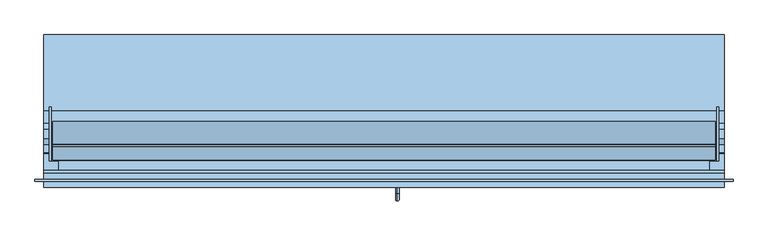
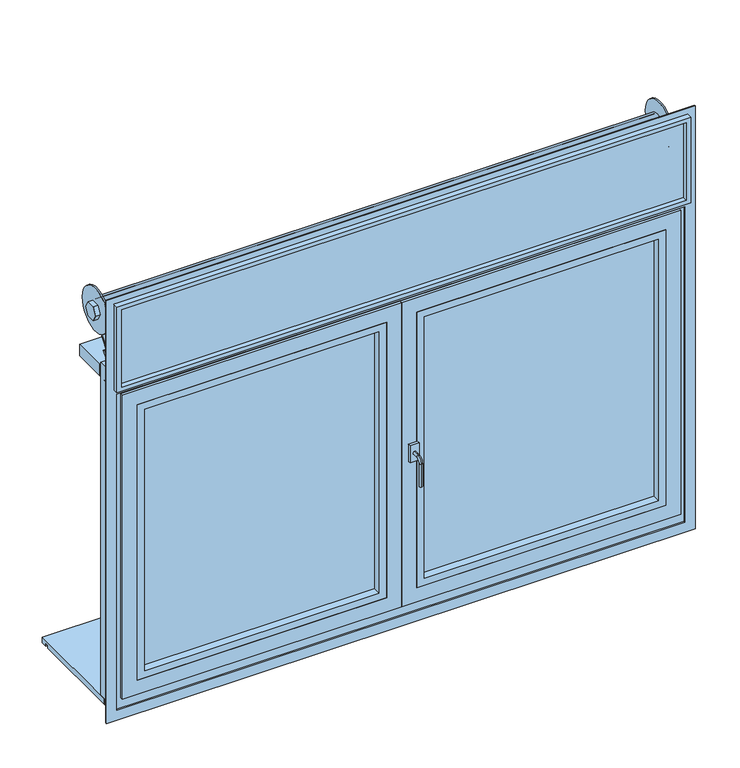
"""IFC4 building model written with IfcOpenShell, lengths in millimetres: window geometry, Ventana monoblock practicable, 2 hojas sin cajon para poner emparchado : CA-02. SALÓN - DORMITORIO SUR."""

import ifcopenshell
import ifcopenshell.guid

model = None  # the IFC model being written
_history = None  # IfcOwnerHistory: only IFC2X3 demands one
_inside = {}  # id of a spatial element -> (the spatial element, [elements in it])
_under = {}  # id of a project, library or spatial element -> (it, [spatial elements below it])
_declared = {}  # id of a project -> (the project, [libraries it declares])
_typed = {}  # id of a type object -> (the type object, [elements of that type])
_made_of = {}  # id of a material, layer set ... -> (it, [elements and type objects made of it])


def new_model(schema):
    """Start an empty IFC model of exactly this schema.

    Asked for "IFC4X3", IfcOpenShell would pick the latest addendum, in which some entities
    have other attributes; the version numbers below select the first issue.
    IFC2X3 requires an IfcOwnerHistory on every rooted entity: one is made here for all.
    """
    global model, _history
    if schema == "IFC4X3":
        model = ifcopenshell.file(schema_version=(4, 3, 0, 0))
    else:
        model = ifcopenshell.file(schema=schema)
    _inside.clear()
    _under.clear()
    _declared.clear()
    _typed.clear()
    _made_of.clear()
    _history = None
    if model.schema == "IFC2X3":
        org = make("IfcOrganization", Name="unknown")
        user = make(
            "IfcPersonAndOrganization",
            ThePerson=make("IfcPerson", FamilyName="unknown"),
            TheOrganization=org,
        )
        app = make(
            "IfcApplication",
            ApplicationDeveloper=org,
            Version="unknown",
            ApplicationFullName="unknown",
            ApplicationIdentifier="unknown",
        )
        _history = make(
            "IfcOwnerHistory",
            OwningUser=user,
            OwningApplication=app,
            ChangeAction="ADDED",
            CreationDate=0,
        )
    return model


def make(cls, **values):
    """One entity of the class cls with the attributes given. An attribute that is None is left unset."""
    return model.create_entity(
        cls, **{name: value for name, value in values.items() if value is not None}
    )


def rooted(cls, **values):
    """An entity with a GlobalId (a new one), such as an element, a storey or a relation."""
    return make(cls, GlobalId=ifcopenshell.guid.new(), OwnerHistory=_history, **values)


def si_unit(unit_type, name, prefix=None):
    """IfcSIUnit, for example si_unit("LENGTHUNIT", "METRE", prefix="MILLI")."""
    return make("IfcSIUnit", UnitType=unit_type, Prefix=prefix, Name=name)


def assignment(units):
    """IfcUnitAssignment: the units of a project."""
    return None if units is None else make("IfcUnitAssignment", Units=units)


def point(xyz):
    """IfcCartesianPoint."""
    return None if xyz is None else make("IfcCartesianPoint", Coordinates=xyz)


def direction(xyz):
    """IfcDirection."""
    return None if xyz is None else make("IfcDirection", DirectionRatios=xyz)


def frame(location, z_axis=None, x_axis=None):
    """IfcAxis2Placement3D, a coordinate frame: its origin and axes. An axis left out is left unset."""
    return make(
        "IfcAxis2Placement3D",
        Location=point(location),
        Axis=direction(z_axis),
        RefDirection=direction(x_axis),
    )


def frame_2d(location, x_axis=None):
    """IfcAxis2Placement2D, a coordinate frame in the plane: its origin and x axis."""
    return make(
        "IfcAxis2Placement2D", Location=point(location), RefDirection=direction(x_axis)
    )


def origin():
    """The frame at (0, 0, 0) with its axes left unset."""
    return frame((0.0, 0.0, 0.0))


def place(relative_to, where):
    """IfcLocalPlacement: puts the frame where relative to a parent placement (None: the world)."""
    return make(
        "IfcLocalPlacement", PlacementRelTo=relative_to, RelativePlacement=where
    )


def context(
    kind, dimensions, precision=None, world=None, true_north=None, identifier=None
):
    """IfcGeometricRepresentationContext, for example the 3D "Model" context."""
    return make(
        "IfcGeometricRepresentationContext",
        ContextIdentifier=identifier,
        ContextType=kind,
        CoordinateSpaceDimension=dimensions,
        Precision=precision,
        WorldCoordinateSystem=world,
        TrueNorth=true_north,
    )


def project(units=None, contexts=None):
    """IfcProject with its units and contexts."""
    return rooted(
        "IfcProject",
        Name="project",
        RepresentationContexts=contexts,
        UnitsInContext=assignment(units),
    )


def spatial(cls, under=None, at=None, **own):
    """A site, building, storey or space (cls), placed at a placement, below another one or the project."""
    s = rooted(cls, ObjectPlacement=at, **own)
    if under is not None:
        _under.setdefault(under.id(), (under, []))[1].append(s)
    return s


def polyline(points):
    """IfcPolyline through the points."""
    return make("IfcPolyline", Points=[point(p) for p in points])


def circle_curve(where, radius):
    """IfcCircle in the frame where."""
    return make("IfcCircle", Position=where, Radius=radius)


def ellipse_curve(where, semi_axis1, semi_axis2):
    """IfcEllipse in the frame where."""
    return make(
        "IfcEllipse", Position=where, SemiAxis1=semi_axis1, SemiAxis2=semi_axis2
    )


def trimmed(basis, trim1, trim2, sense, master):
    """IfcTrimmedCurve: the piece of a basis curve between two trims."""
    return make(
        "IfcTrimmedCurve",
        BasisCurve=basis,
        Trim1=trim1,
        Trim2=trim2,
        SenseAgreement=sense,
        MasterRepresentation=master,
    )


def segment(curve, same_sense, transition):
    """IfcCompositeCurveSegment."""
    return make(
        "IfcCompositeCurveSegment",
        Transition=transition,
        SameSense=same_sense,
        ParentCurve=curve,
    )


def composite_curve(segments, self_intersect=None):
    """IfcCompositeCurve: segments joined end to end."""
    return make("IfcCompositeCurve", Segments=segments, SelfIntersect=self_intersect)


def outline(outer, holes=None, kind="AREA"):
    """IfcArbitraryClosedProfileDef: a profile drawn as a closed curve; with holes, ...WithVoids."""
    if holes is None:
        return make("IfcArbitraryClosedProfileDef", ProfileType=kind, OuterCurve=outer)
    return make(
        "IfcArbitraryProfileDefWithVoids",
        ProfileType=kind,
        OuterCurve=outer,
        InnerCurves=holes,
    )


def extrude(swept, where, along, depth):
    """IfcExtrudedAreaSolid: the profile swept, set in the frame where, extruded along a direction by depth."""
    return make(
        "IfcExtrudedAreaSolid",
        SweptArea=swept,
        Position=where,
        ExtrudedDirection=direction(along),
        Depth=depth,
    )


def faces_of(points, faces, orient=None, outer=None):
    """IfcFace entities. A face is a list of loops; a loop is a list of indices into points, from 0.

    orient and outer hold one flag for each loop. By default every Orientation is true, the
    first loop of a face is its IfcFaceOuterBound and the others are IfcFaceBound.
    """
    made = []
    for i, loops in enumerate(faces):
        bounds = []
        for j, loop in enumerate(loops):
            is_outer = j == 0 if outer is None else outer[i][j]
            bounds.append(
                make(
                    "IfcFaceOuterBound" if is_outer else "IfcFaceBound",
                    Bound=make("IfcPolyLoop", Polygon=[points[k] for k in loop]),
                    Orientation=True if orient is None else orient[i][j],
                )
            )
        made.append(make("IfcFace", Bounds=bounds))
    return made


def faceted_brep(points, faces, orient=None, outer=None, voids=None):
    """IfcFacetedBrep: a solid bounded by flat faces; with voids (closed shells), ...WithVoids."""
    shared = [point(p) for p in points]
    hull = make("IfcClosedShell", CfsFaces=faces_of(shared, faces, orient, outer))
    if voids is None:
        return make("IfcFacetedBrep", Outer=hull)
    return make(
        "IfcFacetedBrepWithVoids",
        Outer=hull,
        Voids=[
            make(cls, CfsFaces=faces_of(shared, fs, o, b)) for cls, fs, o, b in voids
        ],
    )


def shape(context_of_items, identifier, shape_type, items):
    """IfcShapeRepresentation: the items that make up one representation, for example the "Body"."""
    return make(
        "IfcShapeRepresentation",
        ContextOfItems=context_of_items,
        RepresentationIdentifier=identifier,
        RepresentationType=shape_type,
        Items=items,
    )


def source(mapping_origin, context_of_items, identifier, shape_type, items):
    """IfcRepresentationMap: a shape defined once, which mapped items show again and again."""
    return make(
        "IfcRepresentationMap",
        MappingOrigin=mapping_origin,
        MappedRepresentation=shape(context_of_items, identifier, shape_type, items),
    )


def transform(
    local_origin,
    x_axis=None,
    y_axis=None,
    z_axis=None,
    scale=None,
    scale2=None,
    scale3=None,
    uniform=True,
):
    """IfcCartesianTransformationOperator3D, or its non-uniform kind. x_axis, y_axis, z_axis: its Axis1, 2, 3."""
    if uniform:
        return make(
            "IfcCartesianTransformationOperator3D",
            Axis1=direction(x_axis),
            Axis2=direction(y_axis),
            LocalOrigin=point(local_origin),
            Scale=scale,
            Axis3=direction(z_axis),
        )
    return make(
        "IfcCartesianTransformationOperator3DnonUniform",
        Axis1=direction(x_axis),
        Axis2=direction(y_axis),
        LocalOrigin=point(local_origin),
        Scale=scale,
        Axis3=direction(z_axis),
        Scale2=scale2,
        Scale3=scale3,
    )


def mapped(mapping_source, mapping_target):
    """IfcMappedItem: shows the shape of a source again, moved by a transform."""
    return make(
        "IfcMappedItem", MappingSource=mapping_source, MappingTarget=mapping_target
    )


def made_of(thing, what):
    """Note that an element or type object is made of a material, layer set ...; save() writes the relation."""
    if what is not None:
        _made_of.setdefault(what.id(), (what, []))[1].append(thing)
    return thing


def element(
    cls,
    number,
    at=None,
    inside=None,
    cuts=None,
    type_object=None,
    material=None,
    context=None,
    identifier="Body",
    shape_type=None,
    held_by="IfcProductDefinitionShape",
    body=None,
    shapes=None,
    **own,
):
    """One element of the class cls, such as IfcWall. Its Tag is "e" and its number.

    at: its placement. inside: the storey or other place that contains it. cuts: it is an
    opening in that element (IfcRelVoidsElement). A single representation is given by context,
    identifier, shape_type and body (its items); several are given by shapes. held_by: the class
    of the entity that holds the representations. save() writes the other relations.
    """
    e = rooted(cls, Tag="e%d" % number, ObjectPlacement=at, **own)
    if body is not None:
        shapes = [shape(context, identifier, shape_type, body)]
    if shapes is not None:
        e.Representation = make(held_by, Representations=shapes)
    if inside is not None:
        _inside.setdefault(inside.id(), (inside, []))[1].append(e)
    if cuts is not None:
        rooted(
            "IfcRelVoidsElement", RelatingBuildingElement=cuts, RelatedOpeningElement=e
        )
    if type_object is not None:
        _typed.setdefault(type_object.id(), (type_object, []))[1].append(e)
    return made_of(e, material)


def aggregate(whole, parts):
    """IfcRelAggregates: a whole, such as a stair, and the parts it consists of."""
    return rooted("IfcRelAggregates", RelatingObject=whole, RelatedObjects=parts)


def save(model, path):
    """Write the relations noted so far, then the file.

    IfcRelAggregates (storeys below a building ...), IfcRelContainedInSpatialStructure (elements
    in a storey), IfcRelDefinesByType, IfcRelAssociatesMaterial and IfcRelDeclares: one each for
    every whole, place, type object, material and project.
    """
    for whole, parts in _under.values():
        aggregate(whole, parts)
    for where, things in _inside.values():
        rooted(
            "IfcRelContainedInSpatialStructure",
            RelatedElements=things,
            RelatingStructure=where,
        )
    for kind, things in _typed.values():
        rooted("IfcRelDefinesByType", RelatedObjects=things, RelatingType=kind)
    for what, things in _made_of.values():
        rooted("IfcRelAssociatesMaterial", RelatedObjects=things, RelatingMaterial=what)
    for by, libraries in _declared.values():
        rooted("IfcRelDeclares", RelatingContext=by, RelatedDefinitions=libraries)
    model.write(path)


def plane_surface(at):
    """IfcPlane: the flat surface through the origin of the frame at, square to its z axis."""
    return make("IfcPlane", Position=at)


def cylinder_surface(at, radius):
    """IfcCylindricalSurface: all points at the distance radius from the z axis of the frame at."""
    return make("IfcCylindricalSurface", Position=at, Radius=radius)


def revolved_surface(curve, axis_point, axis_direction):
    """IfcSurfaceOfRevolution: the curve turned about the line through axis_point along axis_direction."""
    return make(
        "IfcSurfaceOfRevolution",
        SweptCurve=make("IfcArbitraryOpenProfileDef", ProfileType="CURVE", Curve=curve),
        AxisPosition=make("IfcAxis1Placement", Location=point(axis_point), Axis=direction(axis_direction)),
    )


def advanced_brep(points, edges, surfaces, faces):
    """IfcAdvancedBrep: a solid bounded by faces that lie on surfaces and meet in shared edges.

    An edge is (start, end): straight between two places in points (the first is 0);
    or (start, end, curve); or (start, end, curve, False) where it runs against its curve.
    A face is (place in surfaces, loops), or (place, loops, False) where it looks against
    its surface's normal. A loop lists edges by number (the first is 1), with a minus sign
    where the edge is run from its end to its start. The first loop is the outer one.
    """
    corners = [point(p) for p in points]
    vertices = [make("IfcVertexPoint", VertexGeometry=c) for c in corners]
    made = []
    for start, end, *more in edges:
        made.append(
            make(
                "IfcEdgeCurve",
                EdgeStart=vertices[start],
                EdgeEnd=vertices[end],
                EdgeGeometry=more[0] if more else make("IfcPolyline", Points=[corners[start], corners[end]]),
                SameSense=more[1] if len(more) > 1 else True,
            )
        )
    hull = []
    for where, loops, *sense in faces:
        bounds = []
        for j, loop in enumerate(loops):
            ring = [make("IfcOrientedEdge", EdgeElement=made[abs(k) - 1], Orientation=k > 0) for k in loop]
            bounds.append(
                make(
                    "IfcFaceOuterBound" if j == 0 else "IfcFaceBound",
                    Bound=make("IfcEdgeLoop", EdgeList=ring),
                    Orientation=True,
                )
            )
        hull.append(make("IfcAdvancedFace", Bounds=bounds, FaceSurface=surfaces[where], SameSense=sense[0] if sense else True))
    return make("IfcAdvancedBrep", Outer=make("IfcClosedShell", CfsFaces=hull))


def window_bd042ff0(model_context):
    return source(origin(), model_context, "Body", "SolidModel", [
        extrude(outline(polyline([(935.0, -120.0), (935.0, -135.0), (-935.0, -135.0), (-935.0, -120.0), (935.0, -120.0)])), frame((0.0, 0.0, 2050.0), z_axis=(0.0, 0.0, 1.0), x_axis=(1.0, 0.0, 0.0)), (0.0, 0.0, 1.0), 270.0),
        faceted_brep([(-950.0, -110.0, 2335.0), (-950.0, -150.0, 2335.0), (950.0, -150.0, 2335.0), (950.0, -110.0, 2335.0), (-920.0, -120.0, 2305.0), (-920.0, -110.0, 2305.0), (920.0, -110.0, 2305.0), (920.0, -120.0, 2305.0), (-935.0, -150.0, 2320.0), (-935.0, -120.0, 2320.0), (935.0, -120.0, 2320.0), (935.0, -150.0, 2320.0), (950.0, -150.0, 2035.0), (950.0, -110.0, 2035.0), (920.0, -110.0, 2065.0), (920.0, -120.0, 2065.0), (935.0, -120.0, 2050.0), (935.0, -150.0, 2050.0), (-950.0, -150.0, 2035.0), (-950.0, -110.0, 2035.0), (-920.0, -110.0, 2065.0), (-920.0, -120.0, 2065.0), (-935.0, -120.0, 2050.0), (-935.0, -150.0, 2050.0)], [[[0, 1, 2, 3]], [[4, 5, 6, 7]], [[8, 9, 10, 11]], [[3, 2, 12, 13]], [[7, 6, 14, 15]], [[11, 10, 16, 17]], [[13, 12, 18, 19]], [[15, 14, 20, 21]], [[17, 16, 22, 23]], [[19, 18, 1, 0]], [[3, 13, 19, 0], [5, 20, 14, 6]], [[21, 20, 5, 4]], [[9, 22, 16, 10], [7, 15, 21, 4]], [[23, 22, 9, 8]], [[1, 18, 12, 2], [11, 17, 23, 8]]]),
        advanced_brep(
        [(-950.0, -28.8675135, 2230.0), (-950.0, -14.4337567, 2255.0), (-950.0, 14.4337567, 2255.0), (-950.0, 28.8675135, 2230.0), (-950.0, 14.4337567, 2205.0), (-950.0, -14.4337567, 2205.0), (950.0, -28.8675135, 2230.0), (950.0, -14.4337567, 2205.0), (950.0, 14.4337567, 2205.0), (950.0, 28.8675135, 2230.0), (950.0, 14.4337567, 2255.0), (950.0, -14.4337567, 2255.0), (-935.0, -28.8675135, 2230.0), (-935.0, -14.4337567, 2255.0), (935.0, -14.4337567, 2255.0), (935.0, -28.8675135, 2230.0), (930.0, -28.8675135, 2230.0), (930.0, -14.4337567, 2255.0), (-930.0, -14.4337567, 2255.0), (-930.0, -28.8675135, 2230.0), (-935.0, 14.4337567, 2255.0), (935.0, 14.4337567, 2255.0), (930.0, 14.4337567, 2255.0), (-930.0, 14.4337567, 2255.0), (-935.0, 28.8675135, 2230.0), (935.0, 28.8675135, 2230.0), (930.0, 28.8675135, 2230.0), (-930.0, 28.8675135, 2230.0), (-935.0, 14.4337567, 2205.0), (935.0, 14.4337567, 2205.0), (930.0, 14.4337567, 2205.0), (-930.0, 14.4337567, 2205.0), (-935.0, -14.4337567, 2205.0), (935.0, -14.4337567, 2205.0), (930.0, -14.4337567, 2205.0), (-930.0, -14.4337567, 2205.0), (930.0, -75.0, 2230.0), (930.0, 75.0, 2230.0), (935.0, -75.0, 2230.0), (935.0, 75.0, 2230.0), (-935.0, -75.0, 2230.0), (-935.0, 75.0, 2230.0), (-930.0, -75.0, 2230.0), (-930.0, 75.0, 2230.0)],
        [
            (0, 1),
            (1, 2),
            (2, 3),
            (3, 4),
            (4, 5),
            (5, 0),
            (6, 7),
            (7, 8),
            (8, 9),
            (9, 10),
            (10, 11),
            (11, 6),
            (0, 12),
            (12, 13),
            (13, 1),
            (11, 14),
            (14, 15),
            (15, 6),
            (16, 17),
            (17, 18),
            (18, 19),
            (19, 16),
            (13, 20),
            (20, 2),
            (10, 21),
            (21, 14),
            (17, 22),
            (22, 23),
            (23, 18),
            (20, 24),
            (24, 3),
            (9, 25),
            (25, 21),
            (22, 26),
            (26, 27),
            (27, 23),
            (24, 28),
            (28, 4),
            (8, 29),
            (29, 25),
            (26, 30),
            (30, 31),
            (31, 27),
            (28, 32),
            (32, 5),
            (7, 33),
            (33, 29),
            (30, 34),
            (34, 35),
            (35, 31),
            (32, 12),
            (15, 33),
            (34, 16),
            (19, 35),
            (36, 37, circle_curve(frame((930.0, 0.0, 2230.0), z_axis=(-1.0, 0.0, 0.0), x_axis=(0.0, 1.0, 0.0)), 75.0)),
            (37, 36, circle_curve(frame((930.0, 0.0, 2230.0), z_axis=(-1.0, 0.0, 0.0), x_axis=(0.0, 1.0, 0.0)), 75.0)),
            (38, 39, circle_curve(frame((935.0, 0.0, 2230.0), z_axis=(1.0, 0.0, 0.0), x_axis=(0.0, 1.0, 0.0)), 75.0)),
            (39, 38, circle_curve(frame((935.0, 0.0, 2230.0), z_axis=(1.0, 0.0, 0.0), x_axis=(0.0, 1.0, 0.0)), 75.0)),
            (37, 39),
            (38, 36),
            (40, 41, circle_curve(frame((-935.0, 0.0, 2230.0), z_axis=(-1.0, 0.0, 0.0), x_axis=(0.0, 1.0, 0.0)), 75.0)),
            (41, 40, circle_curve(frame((-935.0, 0.0, 2230.0), z_axis=(-1.0, 0.0, 0.0), x_axis=(0.0, 1.0, 0.0)), 75.0)),
            (42, 43, circle_curve(frame((-930.0, 0.0, 2230.0), z_axis=(1.0, 0.0, 0.0), x_axis=(0.0, 1.0, 0.0)), 75.0)),
            (43, 42, circle_curve(frame((-930.0, 0.0, 2230.0), z_axis=(1.0, 0.0, 0.0), x_axis=(0.0, 1.0, 0.0)), 75.0)),
            (41, 43),
            (42, 40),
        ],
        [
            plane_surface(frame((-950.0, -28.8675135, 2230.0), z_axis=(-1.0, 0.0, 0.0), x_axis=(0.0, 0.4999999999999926, 0.8660254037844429))),
            plane_surface(frame((950.0, -28.8675135, 2230.0), z_axis=(1.0, 0.0, 0.0), x_axis=(0.0, -0.4999999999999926, -0.8660254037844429))),
            plane_surface(frame((-950.0, -28.8675135, 2230.0), z_axis=(0.0, -0.8660254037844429, 0.4999999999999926), x_axis=(1.0, 0.0, 0.0))),
            plane_surface(frame((-950.0, -14.4337567, 2255.0), z_axis=(0.0, 0.0, 1.0), x_axis=(1.0, 0.0, 0.0))),
            plane_surface(frame((-950.0, 14.4337567, 2255.0), z_axis=(0.0, 0.8660254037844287, 0.5000000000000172), x_axis=(1.0, 0.0, 0.0))),
            plane_surface(frame((-950.0, 28.8675135, 2230.0), z_axis=(0.0, 0.8660254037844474, -0.49999999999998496), x_axis=(1.0, 0.0, 0.0))),
            plane_surface(frame((-950.0, 14.4337567, 2205.0), z_axis=(0.0, 0.0, -1.0), x_axis=(1.0, 0.0, 0.0))),
            plane_surface(frame((-950.0, -14.4337567, 2205.0), z_axis=(0.0, -0.8660254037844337, -0.5000000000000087), x_axis=(1.0, 0.0, 0.0))),
            plane_surface(frame((930.0, 75.0, 2230.0), z_axis=(-1.0, 0.0, 0.0), x_axis=(0.0, 0.0, -1.0))),
            plane_surface(frame((935.0, 75.0, 2230.0), z_axis=(1.0, 0.0, 0.0), x_axis=(0.0, 0.0, 1.0))),
            cylinder_surface(frame((930.0, 0.0, 2230.0), z_axis=(1.0, 0.0, 0.0), x_axis=(0.0, 1.0, 0.0)), 75.0),
            plane_surface(frame((-935.0, 75.0, 2230.0), z_axis=(-1.0, 0.0, 0.0), x_axis=(0.0, 0.0, -1.0))),
            plane_surface(frame((-930.0, 75.0, 2230.0), z_axis=(1.0, 0.0, 0.0), x_axis=(0.0, 0.0, 1.0))),
            cylinder_surface(frame((-935.0, 0.0, 2230.0), z_axis=(1.0, 0.0, 0.0), x_axis=(0.0, 1.0, 0.0)), 75.0),
        ],
        [
            (0, [[1, 2, 3, 4, 5, 6]]),
            (1, [[7, 8, 9, 10, 11, 12]]),
            (2, [[-1, 13, 14, 15]]),
            (2, [[-12, 16, 17, 18]]),
            (2, [[19, 20, 21, 22]]),
            (3, [[-2, -15, 23, 24]]),
            (3, [[-11, 25, 26, -16]]),
            (3, [[27, 28, 29, -20]]),
            (4, [[-3, -24, 30, 31]]),
            (4, [[-10, 32, 33, -25]]),
            (4, [[34, 35, 36, -28]]),
            (5, [[-4, -31, 37, 38]]),
            (5, [[-9, 39, 40, -32]]),
            (5, [[41, 42, 43, -35]]),
            (6, [[-5, -38, 44, 45]]),
            (6, [[-8, 46, 47, -39]]),
            (6, [[48, 49, 50, -42]]),
            (7, [[-6, -45, 51, -13]]),
            (7, [[-7, -18, 52, -46]]),
            (7, [[53, -22, 54, -49]]),
            (8, [[55, 56], [-19, -53, -48, -41, -34, -27]]),
            (9, [[57, 58], [-17, -26, -33, -40, -47, -52]]),
            (10, [[-56, 59, -57, 60]]),
            (10, [[-55, -60, -58, -59]]),
            (11, [[61, 62], [-14, -51, -44, -37, -30, -23]]),
            (12, [[63, 64], [-21, -29, -36, -43, -50, -54]]),
            (13, [[-62, 65, -63, 66]]),
            (13, [[-61, -66, -64, -65]]),
        ],
    ),
        extrude(outline(composite_curve([segment(trimmed(circle_curve(frame_2d((0.0, 2230.0)), 29.0), [point((22.8709706, 2212.1697251))], [point((0.0, 2201.0))], True, "CARTESIAN"), True, "CONTINUOUS"), segment(polyline([(0.0, 2201.0), (0.0, 2195.0)]), True, "CONTINUOUS"), segment(trimmed(circle_curve(frame_2d((0.0, 2230.0)), 35.0), [point((0.0, 2195.0))], [point((27.6028956, 2208.4807027))], False, "CARTESIAN"), True, "CONTINUOUS"), segment(polyline([(27.6028956, 2208.4807027), (-66.0, 2088.4158643), (-66.0, 1735.0), (-72.0, 1735.0), (-72.0, 2090.4783214), (22.8709706, 2212.1697251)]), True, "CONTINUOUS")], self_intersect=False)), frame((-925.0, 0.0, 0.0), z_axis=(1.0, 0.0, 0.0), x_axis=(0.0, 1.0, 0.0)), (0.0, 0.0, 1.0), 1850.0),
        extrude(outline(polyline([(-950.0, -52.0), (-950.0, 65.0), (950.0, 65.0), (950.0, -52.0), (-950.0, -52.0)])), frame((0.0, 0.0, 2035.0), z_axis=(0.0, 0.0, 1.0), x_axis=(1.0, 0.0, 0.0)), (0.0, 0.0, 1.0), 40.0),
        extrude(outline(polyline([(910.0, -75.0), (910.0, -100.0), (-910.0, -100.0), (-910.0, -75.0), (910.0, -75.0)])), frame((0.0, 0.0, 2025.0), z_axis=(0.0, 0.0, 1.0), x_axis=(1.0, 0.0, 0.0)), (0.0, 0.0, 1.0), 10.0),
        faceted_brep([(-930.0, -77.0, 920.0), (-910.0, -77.0, 920.0), (-910.0, -100.0, 920.0), (-950.0, -100.0, 920.0), (-950.0, -56.0, 920.0), (-910.0, -56.0, 920.0), (-910.0, -61.0, 920.0), (-930.0, -61.0, 920.0), (-930.0, -77.0, 2085.0), (-910.0, -77.0, 2085.0), (-910.0, -100.0, 2085.0), (-950.0, -100.0, 2085.0), (-950.0, -56.0, 2085.0), (-930.0, -56.0, 2085.0), (-910.0, -56.0, 2085.0), (-910.0, -37.5521886, 2108.65752), (-910.0, -41.4951086, 2111.7321553), (-910.0, -61.0, 2086.7190332), (-930.0, -61.0, 2086.7190332), (-930.0, -61.0, 2085.0), (-930.0, -41.4951086, 2111.7321553), (-930.0, -37.5521886, 2108.65752)], [[[0, 1, 2, 3, 4, 5, 6, 7]], [[8, 9, 1, 0]], [[9, 10, 2, 1]], [[10, 11, 3, 2]], [[11, 12, 4, 3]], [[12, 13, 14, 5, 4]], [[6, 5, 14, 15, 16, 17]], [[7, 6, 17, 18, 19]], [[8, 0, 7, 19]], [[13, 12, 11, 10, 9, 8, 19]], [[18, 20, 21, 13, 19]], [[16, 15, 21, 20]], [[17, 16, 20, 18]], [[15, 14, 13, 21]]]),
        faceted_brep([(950.0, -56.0, 920.0), (950.0, -100.0, 920.0), (910.0, -100.0, 920.0), (910.0, -77.0, 920.0), (930.0, -77.0, 920.0), (930.0, -61.0, 920.0), (910.0, -61.0, 920.0), (910.0, -56.0, 920.0), (950.0, -56.0, 2085.0), (950.0, -100.0, 2085.0), (910.0, -100.0, 2085.0), (910.0, -77.0, 2085.0), (930.0, -77.0, 2085.0), (930.0, -61.0, 2085.0), (930.0, -61.0, 2086.7190332), (910.0, -61.0, 2086.7190332), (910.0, -41.4951086, 2111.7321553), (910.0, -37.5521886, 2108.65752), (910.0, -56.0, 2085.0), (930.0, -56.0, 2085.0), (930.0, -37.5521886, 2108.65752), (930.0, -41.4951086, 2111.7321553)], [[[0, 1, 2, 3, 4, 5, 6, 7]], [[8, 9, 1, 0]], [[9, 10, 2, 1]], [[10, 11, 3, 2]], [[11, 12, 4, 3]], [[4, 12, 13, 5]], [[6, 5, 13, 14, 15]], [[7, 6, 15, 16, 17, 18]], [[19, 8, 0, 7, 18]], [[12, 11, 10, 9, 8, 19, 13]], [[19, 20, 21, 14, 13]], [[21, 20, 17, 16]], [[14, 21, 16, 15]], [[20, 19, 18, 17]]]),
        advanced_brep(
        [(-768.0, -34.0, 1755.0), (-782.0, -34.0, 1755.0), (-765.5, -66.0, 1755.0), (-784.5, -66.0, 1755.0)],
        [
            (0, 1, circle_curve(frame((-775.0, -34.0, 1755.0), z_axis=(0.0, 1.0, 0.0), x_axis=(1.0, 0.0, 0.0)), 7.0)),
            (1, 0, circle_curve(frame((-775.0, -34.0, 1755.0), z_axis=(0.0, 1.0, 0.0), x_axis=(-1.0, 0.0, 0.0)), 7.0)),
            (2, 3, circle_curve(frame((-775.0, -66.0, 1755.0), z_axis=(0.0, -1.0, 0.0), x_axis=(-1.0, 0.0, 0.0)), 9.5)),
            (3, 2, circle_curve(frame((-775.0, -66.0, 1755.0), z_axis=(0.0, -1.0, 0.0), x_axis=(1.0, 0.0, 0.0)), 9.5)),
            (3, 1),
            (0, 2),
        ],
        [
            plane_surface(frame((-775.0, -34.0, 1755.0), z_axis=(0.0, 1.0, 0.0), x_axis=(0.0, 0.0, 1.0))),
            plane_surface(frame((-775.0, -66.0, 1755.0), z_axis=(0.0, -1.0, 0.0), x_axis=(0.0, 0.0, 1.0))),
            revolved_surface(polyline([(-768.0, -33.99999999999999, 1755.0), (-765.5, -66.0, 1755.0)]), (-775.0, 55.6, 1755.0), (0.0, -1.0, 0.0)),
            revolved_surface(polyline([(-782.0, -33.99999999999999, 1755.0), (-784.5, -66.0, 1755.0)]), (-775.0, 55.6, 1755.0), (0.0, -1.0, 0.0)),
        ],
        [
            (0, [[1, 2]]),
            (1, [[3, 4]]),
            (2, [[-4, 5, -1, 6]]),
            (3, [[-3, -6, -2, -5]]),
        ],
    ),
        advanced_brep(
        [(768.0, -34.0, 1755.0), (782.0, -34.0, 1755.0), (765.5, -66.0, 1755.0), (784.5, -66.0, 1755.0)],
        [
            (0, 1, circle_curve(frame((775.0, -34.0, 1755.0), z_axis=(0.0, 1.0, 0.0), x_axis=(-1.0, 0.0, 0.0)), 7.0)),
            (1, 0, circle_curve(frame((775.0, -34.0, 1755.0), z_axis=(0.0, 1.0, 0.0), x_axis=(1.0, 0.0, 0.0)), 7.0)),
            (2, 3, circle_curve(frame((775.0, -66.0, 1755.0), z_axis=(0.0, -1.0, 0.0), x_axis=(1.0, 0.0, 0.0)), 9.5)),
            (3, 2, circle_curve(frame((775.0, -66.0, 1755.0), z_axis=(0.0, -1.0, 0.0), x_axis=(-1.0, 0.0, 0.0)), 9.5)),
            (2, 0),
            (1, 3),
        ],
        [
            plane_surface(frame((775.0, -34.0, 1755.0), z_axis=(0.0, 1.0, 0.0), x_axis=(0.0, 0.0, -1.0))),
            plane_surface(frame((775.0, -66.0, 1755.0), z_axis=(0.0, -1.0, 0.0), x_axis=(0.0, 0.0, -1.0))),
            revolved_surface(polyline([(782.0, -33.99999999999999, 1755.0), (784.5, -66.0, 1755.0)]), (775.0, 55.6, 1755.0), (0.0, -1.0, 0.0)),
            revolved_surface(polyline([(768.0, -33.99999999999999, 1755.0), (765.5, -66.0, 1755.0)]), (775.0, 55.6, 1755.0), (0.0, -1.0, 0.0)),
        ],
        [
            (0, [[1, 2]]),
            (1, [[3, 4]]),
            (2, [[-3, 5, -2, 6]]),
            (3, [[-4, -6, -1, -5]]),
        ],
    ),
        extrude(outline(polyline([(277.5, 920.0), (277.5, 900.0), (257.5, 900.0), (257.5, 910.0), (247.5, 910.0), (247.5, 900.0), (-77.5, 900.0), (-77.5, 920.0), (277.5, 920.0)])), frame((-950.0, 0.0, 0.0), z_axis=(1.0, 0.0, 0.0), x_axis=(0.0, 1.0, 0.0)), (0.0, 0.0, 1.0), 1900.0),
        advanced_brep(
        [(37.5, -147.5, 1482.5), (37.5, -166.5, 1482.5), (37.5, -166.5, 1472.5), (37.5, -147.5, 1472.5), (37.5, -187.5, 1461.5), (37.5, -177.5, 1461.5), (37.5, -187.5, 1382.5), (37.5, -177.5, 1382.5), (52.5, -147.5, 1507.5), (22.5, -147.5, 1507.5), (22.5, -147.5, 1447.5), (52.5, -147.5, 1447.5), (52.5, -137.5, 1507.5), (52.5, -137.5, 1447.5), (22.5, -137.5, 1447.5), (22.5, -137.5, 1507.5)],
        [
            (0, 1),
            (1, 2, circle_curve(frame((37.5, -166.5, 1477.5), z_axis=(0.0, 1.0, 0.0), x_axis=(0.0, 0.0, -1.0)), 5.0)),
            (2, 3),
            (3, 0, circle_curve(frame((37.5, -147.5, 1477.5), z_axis=(0.0, -1.0, 0.0), x_axis=(0.0, 0.0, -1.0)), 5.0)),
            (0, 3, circle_curve(frame((37.5, -147.5, 1477.5), z_axis=(0.0, -1.0, 0.0), x_axis=(0.0, 0.0, -1.0)), 5.0)),
            (2, 1, circle_curve(frame((37.5, -166.5, 1477.5), z_axis=(0.0, 1.0, 0.0), x_axis=(0.0, 0.0, -1.0)), 5.0)),
            (1, 4, circle_curve(frame((37.5, -166.5, 1461.5), z_axis=(1.0, 0.0, 0.0), x_axis=(0.0, 0.0, 1.0)), 21.0)),
            (4, 5, circle_curve(frame((37.5, -182.5, 1461.5), z_axis=(0.0, 0.0, 1.0), x_axis=(0.0, 1.0, 0.0)), 5.0)),
            (5, 2, circle_curve(frame((37.5, -166.5, 1461.5), z_axis=(-1.0, 0.0, 0.0), x_axis=(0.0, 0.0, 1.0)), 11.0)),
            (5, 4, circle_curve(frame((37.5, -182.5, 1461.5), z_axis=(0.0, 0.0, 1.0), x_axis=(0.0, 1.0, 0.0)), 5.0)),
            (6, 7, circle_curve(frame((37.5, -182.5, 1382.5), z_axis=(0.0, 0.0, -1.0), x_axis=(0.0, 1.0, 0.0)), 5.0)),
            (7, 6, circle_curve(frame((37.5, -182.5, 1382.5), z_axis=(0.0, 0.0, -1.0), x_axis=(0.0, 1.0, 0.0)), 5.0)),
            (4, 6),
            (7, 5),
            (8, 9),
            (9, 10),
            (10, 11),
            (11, 8),
            (12, 13),
            (13, 14),
            (14, 15),
            (15, 12),
            (8, 12),
            (15, 9),
            (14, 10),
            (13, 11),
        ],
        [
            cylinder_surface(frame((37.5, -147.5, 1477.5), z_axis=(0.0, 1.0, 0.0), x_axis=(0.0, 0.0, -1.0)), 5.0),
            revolved_surface(trimmed(ellipse_curve(frame((37.5, -166.5, 1477.5), z_axis=(0.0, 1.0, 0.0), x_axis=(0.0, 0.0, -1.0)), 5.0, 5.0), [point((37.5, -166.5, 1482.5))], [point((37.5, -166.5, 1472.5))], True, "CARTESIAN"), (37.5, -166.5, 1461.5), (1.0, 0.0, 0.0)),
            revolved_surface(trimmed(ellipse_curve(frame((37.5, -166.5, 1477.5), z_axis=(0.0, 1.0, 0.0), x_axis=(0.0, 0.0, -1.0)), 5.0, 5.0), [point((37.5, -166.5, 1472.5))], [point((37.5, -166.5, 1482.5))], True, "CARTESIAN"), (37.5, -166.5, 1461.5), (1.0, 0.0, 0.0)),
            plane_surface(frame((37.5, -182.5, 1382.5), z_axis=(0.0, 0.0, -1.0), x_axis=(1.0, 0.0, 0.0))),
            cylinder_surface(frame((37.5, -182.5, 1461.5), z_axis=(0.0, 0.0, 1.0), x_axis=(0.0, 1.0, 0.0)), 5.0),
            plane_surface(frame((22.5, -147.5, 1507.5), z_axis=(0.0, -1.0, 0.0), x_axis=(-1.0, 0.0, 0.0))),
            plane_surface(frame((22.5, -137.5, 1507.5), z_axis=(0.0, 1.0, 0.0), x_axis=(1.0, 0.0, 0.0))),
            plane_surface(frame((52.5, -147.5, 1507.5), z_axis=(0.0, 0.0, 1.0), x_axis=(0.0, 1.0, 0.0))),
            plane_surface(frame((22.5, -147.5, 1507.5), z_axis=(-1.0, 0.0, 0.0), x_axis=(0.0, 1.0, 0.0))),
            plane_surface(frame((22.5, -147.5, 1447.5), z_axis=(0.0, 0.0, -1.0), x_axis=(0.0, 1.0, 0.0))),
            plane_surface(frame((52.5, -147.5, 1447.5), z_axis=(1.0, 0.0, 0.0), x_axis=(0.0, 1.0, 0.0))),
        ],
        [
            (0, [[1, 2, 3, 4]]),
            (0, [[-1, 5, -3, 6]]),
            (1, [[-2, 7, 8, 9]]),
            (2, [[-6, -9, 10, -7]]),
            (3, [[11, 12]]),
            (4, [[-8, 13, -12, 14]]),
            (4, [[-10, -14, -11, -13]]),
            (5, [[15, 16, 17, 18], [-4, -5]]),
            (6, [[19, 20, 21, 22]]),
            (7, [[-15, 23, -22, 24]]),
            (8, [[-16, -24, -21, 25]]),
            (9, [[-17, -25, -20, 26]]),
            (10, [[-18, -26, -19, -23]]),
        ],
    ),
        faceted_brep([(950.0, -77.5, 2035.0), (950.0, -127.5, 2035.0), (950.0, -127.5, 900.0), (950.0, -77.5, 900.0), (-950.0, -127.5, 2035.0), (-950.0, -127.5, 900.0), (915.0, -127.5, 2000.0), (915.0, -127.5, 955.0), (-915.0, -127.5, 955.0), (-915.0, -127.5, 2000.0), (-950.0, -77.5, 900.0), (-950.0, -77.5, 2035.0), (890.0, -77.5, 980.0), (890.0, -77.5, 1975.0), (-890.0, -77.5, 1975.0), (-890.0, -77.5, 980.0), (890.0, -87.5, 1975.0), (890.0, -87.5, 980.0), (-890.0, -87.5, 980.0), (915.0, -87.5, 955.0), (915.0, -87.5, 2000.0), (-915.0, -87.5, 2000.0), (-915.0, -87.5, 955.0), (-890.0, -87.5, 1975.0)], [[[0, 1, 2, 3]], [[2, 1, 4, 5], [6, 7, 8, 9]], [[3, 2, 5, 10]], [[0, 3, 10, 11], [12, 13, 14, 15]], [[16, 13, 12, 17]], [[17, 12, 15, 18]], [[19, 20, 21, 22], [16, 17, 18, 23]], [[6, 20, 19, 7]], [[7, 19, 22, 8]], [[18, 15, 14, 23]], [[8, 22, 21, 9]], [[4, 11, 10, 5]], [[1, 0, 11, 4]], [[13, 16, 23, 14]], [[20, 6, 9, 21]]]),
        faceted_brep([(-25.0, -87.5, 980.0), (-35.0, -87.5, 980.0), (-35.0, -77.5, 980.0), (35.0, -77.5, 980.0), (35.0, -87.5, 980.0), (10.0, -87.5, 980.0), (-25.0, -87.5, 1975.0), (-35.0, -87.5, 1975.0), (-35.0, -77.5, 1975.0), (35.0, -77.5, 1975.0), (35.0, -87.5, 1975.0), (10.0, -87.5, 1975.0), (10.0, -87.5, 955.0), (-25.0, -87.5, 955.0), (-62.5, -87.5, 1975.0), (-62.5, -87.5, 2000.0), (10.0, -87.5, 2000.0), (-35.0, -87.5, 1975.0), (-25.0, -127.5, 955.0), (-25.0, -127.5, 1975.0), (10.0, -127.5, 2000.0), (-62.5, -127.5, 2000.0), (-62.5, -127.5, 1975.0), (10.0, -127.5, 955.0)], [[[0, 1, 2, 3, 4, 5]], [[1, 0, 6, 7]], [[2, 1, 7, 8]], [[3, 2, 8, 9]], [[4, 3, 9, 10]], [[5, 4, 10, 11]], [[5, 12, 13, 0]], [[14, 15, 16, 11, 6, 17]], [[18, 19, 6, 0, 13]], [[20, 21, 22, 19, 18, 23]], [[23, 18, 13, 12]], [[20, 23, 12, 5, 11, 16]], [[11, 10, 9, 8, 7, 6]], [[21, 20, 16, 15]], [[22, 21, 15, 14]], [[22, 14, 17, 6, 19]]]),
        extrude(outline(polyline([(-60.0, -97.5), (-60.0, -111.5), (-865.0, -111.5), (-865.0, -97.5), (-60.0, -97.5)])), frame((0.0, 0.0, 1005.0), z_axis=(0.0, 0.0, 1.0), x_axis=(1.0, 0.0, 0.0)), (0.0, 0.0, 1.0), 945.0),
        extrude(outline(polyline([(865.0, -97.5), (865.0, -111.5), (60.0, -111.5), (60.0, -97.5), (865.0, -97.5)])), frame((0.0, 0.0, 1005.0), z_axis=(0.0, 0.0, 1.0), x_axis=(1.0, 0.0, 0.0)), (0.0, 0.0, 1.0), 945.0),
        faceted_brep([(-75.0, -97.5, 1935.0), (-75.0, -87.5, 1935.0), (-75.0, -87.5, 1020.0), (-75.0, -97.5, 1020.0), (-25.0, -87.5, 1985.0), (-25.0, -87.5, 970.0), (-900.0, -87.5, 970.0), (-900.0, -87.5, 1985.0), (-850.0, -87.5, 1935.0), (-850.0, -87.5, 1020.0), (-850.0, -97.5, 1020.0), (-875.0, -97.5, 1960.0), (-875.0, -97.5, 995.0), (-50.0, -97.5, 995.0), (-50.0, -97.5, 1960.0), (-850.0, -97.5, 1935.0), (-50.0, -137.5, 1960.0), (-50.0, -137.5, 995.0), (-875.0, -137.5, 995.0), (-925.0, -137.5, 2010.0), (-925.0, -137.5, 945.0), (0.0, -137.5, 945.0), (0.0, -137.5, 2010.0), (-875.0, -137.5, 1960.0), (0.0, -127.5, 2010.0), (0.0, -127.5, 945.0), (-925.0, -127.5, 945.0), (-925.0, -127.5, 2010.0), (-900.0, -127.5, 1985.0), (-900.0, -127.5, 970.0), (-25.0, -127.5, 970.0), (-25.0, -127.5, 1985.0)], [[[0, 1, 2, 3]], [[4, 5, 6, 7], [8, 9, 2, 1]], [[3, 2, 9, 10]], [[11, 12, 13, 14], [0, 3, 10, 15]], [[16, 14, 13, 17]], [[17, 13, 12, 18]], [[19, 20, 21, 22], [16, 17, 18, 23]], [[24, 22, 21, 25]], [[25, 21, 20, 26]], [[24, 25, 26, 27], [28, 29, 30, 31]], [[4, 31, 30, 5]], [[5, 30, 29, 6]], [[10, 9, 8, 15]], [[18, 12, 11, 23]], [[26, 20, 19, 27]], [[6, 29, 28, 7]], [[15, 8, 1, 0]], [[23, 11, 14, 16]], [[27, 19, 22, 24]], [[7, 28, 31, 4]]]),
        extrude(outline(polyline([(1960.0, -875.0), (995.0, -875.0), (995.0, -50.0), (1960.0, -50.0), (1960.0, -875.0)]), holes=[polyline([(1935.0, -75.0), (1020.0, -75.0), (1020.0, -850.0), (1935.0, -850.0), (1935.0, -75.0)])]), frame((0.0, -137.5, 0.0), z_axis=(0.0, 1.0, 0.0), x_axis=(0.0, 0.0, 1.0)), (0.0, 0.0, 1.0), 26.0),
        extrude(outline(polyline([(1960.0, 50.0), (995.0, 50.0), (995.0, 875.0), (1960.0, 875.0), (1960.0, 50.0)]), holes=[polyline([(1935.0, 850.0), (1020.0, 850.0), (1020.0, 75.0), (1935.0, 75.0), (1935.0, 850.0)])]), frame((0.0, -137.5, 0.0), z_axis=(0.0, 1.0, 0.0), x_axis=(0.0, 0.0, 1.0)), (0.0, 0.0, 1.0), 26.0),
        faceted_brep([(25.0, -127.5, 1985.0), (25.0, -87.5, 1985.0), (25.0, -87.5, 970.0), (25.0, -127.5, 970.0), (900.0, -87.5, 1985.0), (900.0, -87.5, 970.0), (75.0, -87.5, 1935.0), (75.0, -87.5, 1020.0), (850.0, -87.5, 1020.0), (850.0, -87.5, 1935.0), (900.0, -127.5, 970.0), (925.0, -127.5, 2010.0), (925.0, -127.5, 945.0), (0.0, -127.5, 945.0), (0.0, -127.5, 2010.0), (900.0, -127.5, 1985.0), (0.0, -137.5, 2010.0), (0.0, -137.5, 945.0), (925.0, -137.5, 945.0), (925.0, -137.5, 2010.0), (875.0, -137.5, 1960.0), (875.0, -137.5, 995.0), (50.0, -137.5, 995.0), (50.0, -137.5, 1960.0), (75.0, -97.5, 1935.0), (75.0, -97.5, 1020.0), (50.0, -97.5, 1960.0), (50.0, -97.5, 995.0), (875.0, -97.5, 995.0), (875.0, -97.5, 1960.0), (850.0, -97.5, 1935.0), (850.0, -97.5, 1020.0)], [[[0, 1, 2, 3]], [[4, 5, 2, 1], [6, 7, 8, 9]], [[3, 2, 5, 10]], [[11, 12, 13, 14], [0, 3, 10, 15]], [[16, 14, 13, 17]], [[17, 13, 12, 18]], [[16, 17, 18, 19], [20, 21, 22, 23]], [[6, 24, 25, 7]], [[26, 27, 28, 29], [30, 31, 25, 24]], [[7, 25, 31, 8]], [[10, 5, 4, 15]], [[18, 12, 11, 19]], [[8, 31, 30, 9]], [[28, 21, 20, 29]], [[27, 22, 21, 28]], [[26, 23, 22, 27]], [[15, 4, 1, 0]], [[19, 11, 14, 16]], [[9, 30, 24, 6]], [[29, 20, 23, 26]]]),
        extrude(outline(polyline([(2355.0, 975.0), (2355.0, -975.0), (875.0, -975.0), (875.0, 975.0), (2355.0, 975.0)]), holes=[polyline([(910.0, -940.0), (2015.0, -940.0), (2015.0, 940.0), (910.0, 940.0), (910.0, -940.0)]), polyline([(2320.0, -940.0), (2320.0, 940.0), (2050.0, 940.0), (2050.0, -940.0), (2320.0, -940.0)])]), frame((0.0, -132.5, 0.0), z_axis=(0.0, 1.0, 0.0), x_axis=(0.0, 0.0, 1.0)), (0.0, 0.0, 1.0), 5.0),
    ])


if __name__ == "__main__":
    model = new_model("IFC4")
    model_context = context("Model", 3, world=origin())
    ifc_project = project(units=[si_unit("LENGTHUNIT", "METRE", prefix="MILLI")], contexts=[model_context])
    site = spatial("IfcSite", under=ifc_project)
    building = spatial("IfcBuilding", under=site)
    placement = place(None, origin())
    window_shape = window_bd042ff0(model_context)
    element("IfcWindow", 1, ObjectType="Ventana monoblock practicable, 2 hojas sin cajon para poner emparchado : CA-02. SALÓN - DORMITORIO SUR", at=placement, inside=building, context=model_context, shape_type="MappedRepresentation", body=[
        mapped(window_shape, transform((0.0, 0.0, 0.0), x_axis=(1.0, 0.0, 0.0), y_axis=(0.0, 1.0, 0.0), z_axis=(0.0, 0.0, 1.0))),
    ])
    save(model, "model.ifc")
